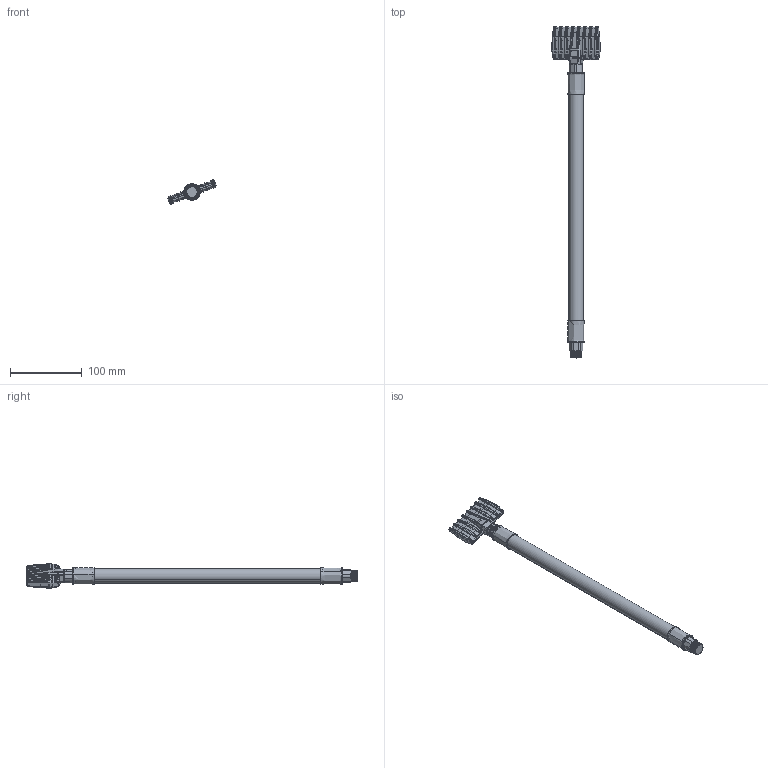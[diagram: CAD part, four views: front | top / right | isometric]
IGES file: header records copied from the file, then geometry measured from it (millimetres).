
Start section: SolidWorks IGES file using analytic representation for surfaces
Global section: file name: G:\SILVENT AB\ENGINEERING\Drawings\WEB CAD\CAD\9005W-S-400.IGS; native system: SolidWorks 2021; preprocessor: SolidWorks 2021; author: p.jaasko; date: 241017.083057; units: millimetre
Bounding box: 67.83 x 463.5 x 33.8 mm (x, y, z)
Surface area: 48753.2 mm2 (no closed solid volume)
Topology: 0 solids, 0 shells, 1760 faces, 14511 edges, 14464 vertices
Faces by surface type: revolution 905, bspline 855
